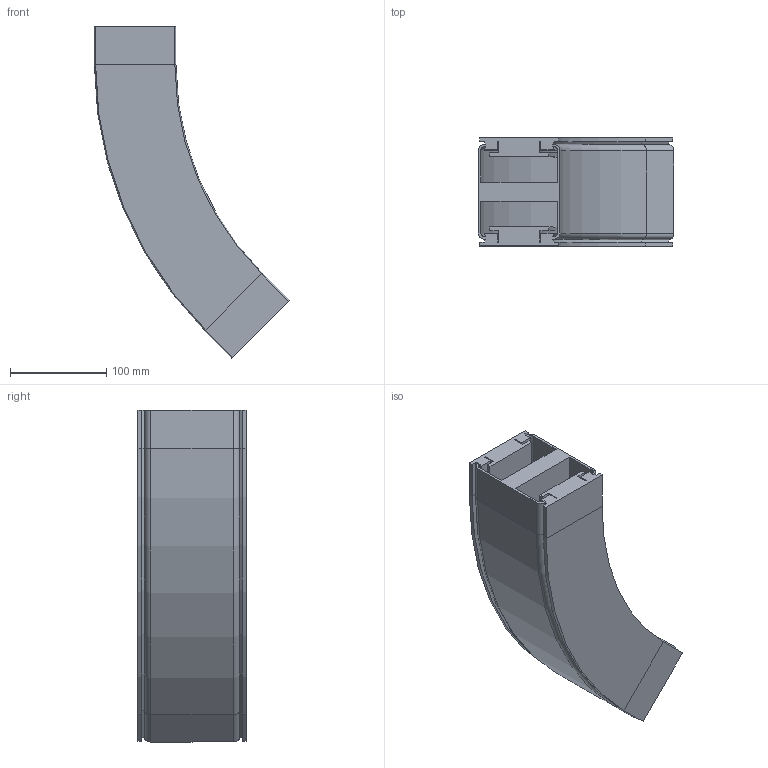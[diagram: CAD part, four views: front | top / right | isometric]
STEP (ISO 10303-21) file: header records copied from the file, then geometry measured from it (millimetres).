
FILE_DESCRIPTION (( 'STEP AP214' ), '1' );
FILE_NAME ('VC.85 Horizontale bochtsectie R350 45°.STEP', '2016-10-19T07:02:36', ( '' ), ( '' ), 'SwSTEP 2.0', 'SolidWorks 2016', '' );
FILE_SCHEMA (( 'AUTOMOTIVE_DESIGN' ));
Length unit declared in the file: millimetre
Products named in the file (1): VC.85 Horizontale bochtsectie R350 45°
Bounding box: 203.35 x 113 x 345.82 mm (x, y, z)
Volume: 1691803.8 mm3; surface area: 395904.7 mm2
Topology: 1 solids, 1 shells, 206 faces, 476 edges, 272 vertices
Faces by surface type: plane 152, cylinder 38, cone 8, torus 8
Entity records: 5674 total; most frequent: DIRECTION 990, CARTESIAN_POINT 955, ORIENTED_EDGE 952, EDGE_CURVE 476, VECTOR 376, LINE 376, AXIS2_PLACEMENT_3D 307, VERTEX_POINT 272
